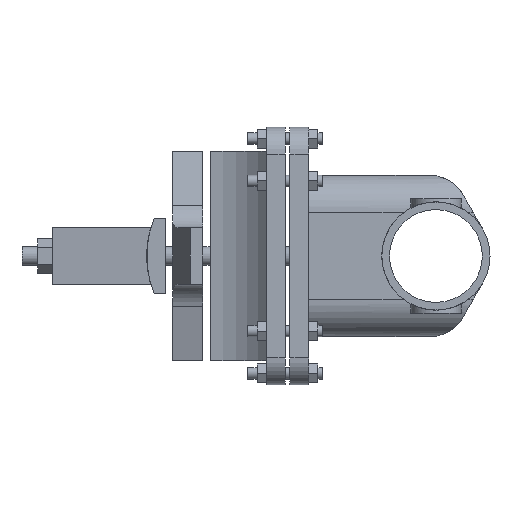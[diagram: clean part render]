
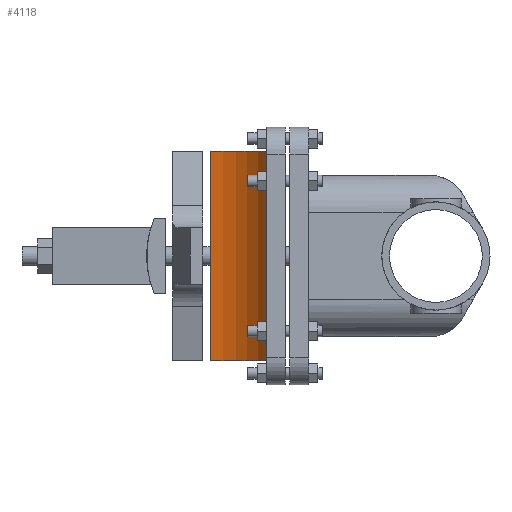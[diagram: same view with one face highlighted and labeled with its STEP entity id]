
A CAD part, left-side view. The second image highlights one B-rep face of the part: STEP entity #4118.
In plain terms, the highlighted cylindrical face has radius 50.8 mm (diameter 101.6 mm), a partial arc.
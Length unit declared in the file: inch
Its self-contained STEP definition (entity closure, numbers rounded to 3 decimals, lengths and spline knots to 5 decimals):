
#93=CYLINDRICAL_SURFACE('',#4383,2.);
#211=CIRCLE('',#4384,2.);
#212=CIRCLE('',#4385,2.);
#362=FACE_OUTER_BOUND('',#589,.T.);
#589=EDGE_LOOP('',(#2821,#2822,#2823,#2824));
#939=LINE('',#6280,#1345);
#940=LINE('',#6283,#1346);
#1345=VECTOR('',#4964,0.3937);
#1346=VECTOR('',#4967,0.3937);
#1741=VERTEX_POINT('',#6276);
#1742=VERTEX_POINT('',#6277);
#1743=VERTEX_POINT('',#6279);
#1744=VERTEX_POINT('',#6281);
#2170=EDGE_CURVE('',#1741,#1742,#211,.F.);
#2171=EDGE_CURVE('',#1743,#1741,#939,.T.);
#2172=EDGE_CURVE('',#1743,#1744,#212,.T.);
#2173=EDGE_CURVE('',#1742,#1744,#940,.T.);
#2821=ORIENTED_EDGE('',*,*,#2170,.F.);
#2822=ORIENTED_EDGE('',*,*,#2171,.F.);
#2823=ORIENTED_EDGE('',*,*,#2172,.T.);
#2824=ORIENTED_EDGE('',*,*,#2173,.F.);
#4118=ADVANCED_FACE('',(#362),#93,.F.);
#4383=AXIS2_PLACEMENT_3D('',#6275,#4960,#4961);
#4384=AXIS2_PLACEMENT_3D('',#6278,#4962,#4963);
#4385=AXIS2_PLACEMENT_3D('',#6282,#4965,#4966);
#4960=DIRECTION('center_axis',(0.,0.,-1.));
#4961=DIRECTION('ref_axis',(1.,-0.031,0.));
#4962=DIRECTION('center_axis',(0.,0.,-1.));
#4963=DIRECTION('ref_axis',(1.,-0.031,0.));
#4964=DIRECTION('',(0.,0.,-1.));
#4965=DIRECTION('center_axis',(0.,0.,1.));
#4966=DIRECTION('ref_axis',(1.,-0.031,0.));
#4967=DIRECTION('',(0.,0.,1.));
#6275=CARTESIAN_POINT('Origin',(-2.99904,6.07202,0.));
#6276=CARTESIAN_POINT('',(-1.75,4.51,-2.795));
#6277=CARTESIAN_POINT('',(-1.,6.01,-2.795));
#6278=CARTESIAN_POINT('Origin',(-2.99904,6.07202,-2.795));
#6279=CARTESIAN_POINT('',(-1.75,4.51,2.795));
#6280=CARTESIAN_POINT('',(-1.75,4.51,0.));
#6281=CARTESIAN_POINT('',(-1.,6.01,2.795));
#6282=CARTESIAN_POINT('Origin',(-2.99904,6.07202,2.795));
#6283=CARTESIAN_POINT('',(-1.,6.01,0.));
